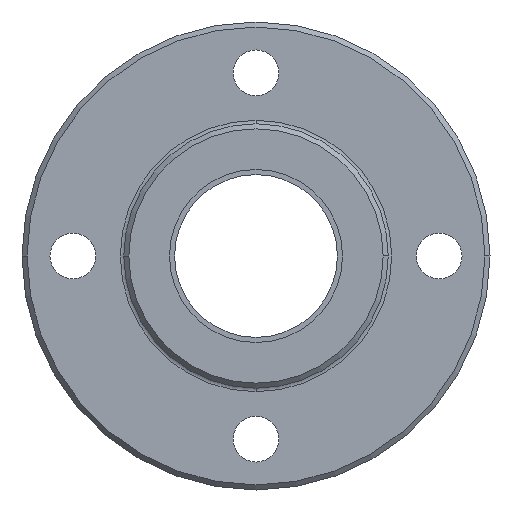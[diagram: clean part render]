
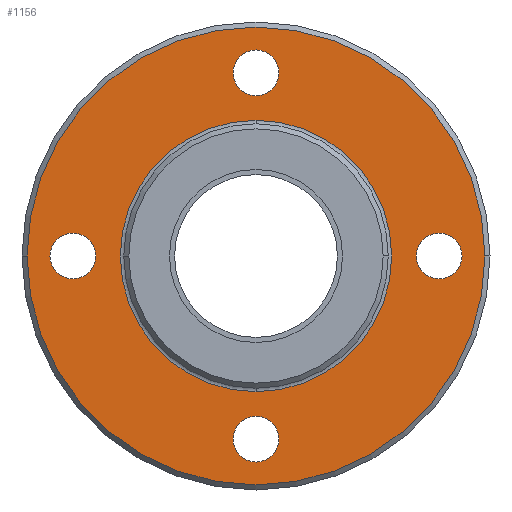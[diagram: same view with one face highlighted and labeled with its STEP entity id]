
A CAD part, left-side view. The second image highlights one B-rep face of the part: STEP entity #1156.
In plain terms, the highlighted planar face has unit normal (-1, 0, 0).
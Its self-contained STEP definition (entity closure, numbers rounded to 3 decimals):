
#8 = EDGE_LOOP ( 'NONE', ( #797, #120 ) ) ;
#15 = EDGE_CURVE ( 'NONE', #1193, #475, #1440, .T. ) ;
#51 = CIRCLE ( 'NONE', #246, 2.25 ) ;
#67 = ORIENTED_EDGE ( 'NONE', *, *, #15, .T. ) ;
#83 = DIRECTION ( 'NONE',  ( -1., 0., 0. ) ) ;
#89 = DIRECTION ( 'NONE',  ( 1., 0., 0. ) ) ;
#100 = VERTEX_POINT ( 'NONE', #1196 ) ;
#104 = AXIS2_PLACEMENT_3D ( 'NONE', #811, #674, #571 ) ;
#120 = ORIENTED_EDGE ( 'NONE', *, *, #1020, .T. ) ;
#125 = DIRECTION ( 'NONE',  ( 1., 0., 0. ) ) ;
#131 = VERTEX_POINT ( 'NONE', #1319 ) ;
#179 = ORIENTED_EDGE ( 'NONE', *, *, #1403, .T. ) ;
#194 = EDGE_LOOP ( 'NONE', ( #1225, #749 ) ) ;
#196 = ORIENTED_EDGE ( 'NONE', *, *, #432, .T. ) ;
#230 = VERTEX_POINT ( 'NONE', #1350 ) ;
#235 = DIRECTION ( 'NONE',  ( 0., 0., -1. ) ) ;
#238 = AXIS2_PLACEMENT_3D ( 'NONE', #894, #83, #1368 ) ;
#241 = EDGE_CURVE ( 'NONE', #131, #645, #564, .T. ) ;
#246 = AXIS2_PLACEMENT_3D ( 'NONE', #1011, #1211, #1129 ) ;
#253 = AXIS2_PLACEMENT_3D ( 'NONE', #1495, #292, #429 ) ;
#263 = VERTEX_POINT ( 'NONE', #857 ) ;
#267 = FACE_BOUND ( 'NONE', #194, .T. ) ;
#275 = CARTESIAN_POINT ( 'NONE',  ( 30., -15.75, 0. ) ) ;
#290 = EDGE_CURVE ( 'NONE', #475, #1193, #51, .T. ) ;
#292 = DIRECTION ( 'NONE',  ( -1., 0., 0. ) ) ;
#298 = DIRECTION ( 'NONE',  ( -1., 0., 0. ) ) ;
#301 = AXIS2_PLACEMENT_3D ( 'NONE', #1480, #881, #1230 ) ;
#339 = AXIS2_PLACEMENT_3D ( 'NONE', #1510, #1152, #467 ) ;
#342 = EDGE_CURVE ( 'NONE', #604, #100, #394, .T. ) ;
#345 = ORIENTED_EDGE ( 'NONE', *, *, #774, .T. ) ;
#364 = CARTESIAN_POINT ( 'NONE',  ( 30., 0., -15.75 ) ) ;
#368 = DIRECTION ( 'NONE',  ( -1., 0., 0. ) ) ;
#374 = CARTESIAN_POINT ( 'NONE',  ( 30., 0., 13.338 ) ) ;
#386 = FACE_BOUND ( 'NONE', #1465, .T. ) ;
#394 = CIRCLE ( 'NONE', #687, 2.25 ) ;
#412 = CIRCLE ( 'NONE', #339, 2.25 ) ;
#429 = DIRECTION ( 'NONE',  ( 0., 1., 0. ) ) ;
#432 = EDGE_CURVE ( 'NONE', #895, #1316, #1116, .T. ) ;
#452 = CARTESIAN_POINT ( 'NONE',  ( 30., 22.5, 0. ) ) ;
#462 = CARTESIAN_POINT ( 'NONE',  ( 30., -22.5, 0. ) ) ;
#467 = DIRECTION ( 'NONE',  ( 0., 1., 0. ) ) ;
#475 = VERTEX_POINT ( 'NONE', #554 ) ;
#500 = FACE_BOUND ( 'NONE', #841, .T. ) ;
#536 = CIRCLE ( 'NONE', #853, 2.25 ) ;
#554 = CARTESIAN_POINT ( 'NONE',  ( 30., 0., 20.25 ) ) ;
#555 = ORIENTED_EDGE ( 'NONE', *, *, #290, .T. ) ;
#564 = CIRCLE ( 'NONE', #301, 2.25 ) ;
#571 = DIRECTION ( 'NONE',  ( 0., 0., -1. ) ) ;
#578 = CIRCLE ( 'NONE', #238, 13.338 ) ;
#604 = VERTEX_POINT ( 'NONE', #275 ) ;
#627 = CARTESIAN_POINT ( 'NONE',  ( 30., 17.919, 0. ) ) ;
#629 = VERTEX_POINT ( 'NONE', #374 ) ;
#645 = VERTEX_POINT ( 'NONE', #364 ) ;
#671 = CARTESIAN_POINT ( 'NONE',  ( 30., 0., -13.338 ) ) ;
#674 = DIRECTION ( 'NONE',  ( 1., 0., 0. ) ) ;
#678 = CIRCLE ( 'NONE', #751, 2.25 ) ;
#687 = AXIS2_PLACEMENT_3D ( 'NONE', #1347, #1119, #1242 ) ;
#714 = FACE_BOUND ( 'NONE', #8, .T. ) ;
#739 = DIRECTION ( 'NONE',  ( 0., 1., 0. ) ) ;
#740 = PLANE ( 'NONE',  #922 ) ;
#749 = ORIENTED_EDGE ( 'NONE', *, *, #805, .F. ) ;
#751 = AXIS2_PLACEMENT_3D ( 'NONE', #1012, #89, #756 ) ;
#756 = DIRECTION ( 'NONE',  ( 0., 1., 0. ) ) ;
#762 = CARTESIAN_POINT ( 'NONE',  ( 30., 0., 15.75 ) ) ;
#768 = DIRECTION ( 'NONE',  ( 0., 1., 0. ) ) ;
#774 = EDGE_CURVE ( 'NONE', #230, #263, #678, .T. ) ;
#791 = ORIENTED_EDGE ( 'NONE', *, *, #241, .T. ) ;
#797 = ORIENTED_EDGE ( 'NONE', *, *, #342, .T. ) ;
#805 = EDGE_CURVE ( 'NONE', #1422, #629, #578, .T. ) ;
#811 = CARTESIAN_POINT ( 'NONE',  ( 30., 0., 18. ) ) ;
#841 = EDGE_LOOP ( 'NONE', ( #179, #345 ) ) ;
#853 = AXIS2_PLACEMENT_3D ( 'NONE', #1064, #1033, #1419 ) ;
#857 = CARTESIAN_POINT ( 'NONE',  ( 30., 20.25, 0. ) ) ;
#879 = CARTESIAN_POINT ( 'NONE',  ( 30., 0., 0. ) ) ;
#881 = DIRECTION ( 'NONE',  ( 1., 0., 0. ) ) ;
#894 = CARTESIAN_POINT ( 'NONE',  ( 30., 0., 0. ) ) ;
#895 = VERTEX_POINT ( 'NONE', #462 ) ;
#922 = AXIS2_PLACEMENT_3D ( 'NONE', #627, #1104, #1383 ) ;
#924 = AXIS2_PLACEMENT_3D ( 'NONE', #1202, #368, #739 ) ;
#994 = CIRCLE ( 'NONE', #253, 13.338 ) ;
#1007 = EDGE_CURVE ( 'NONE', #645, #131, #1382, .T. ) ;
#1011 = CARTESIAN_POINT ( 'NONE',  ( 30., 0., 18. ) ) ;
#1012 = CARTESIAN_POINT ( 'NONE',  ( 30., 18., 0. ) ) ;
#1015 = AXIS2_PLACEMENT_3D ( 'NONE', #879, #298, #768 ) ;
#1020 = EDGE_CURVE ( 'NONE', #100, #604, #536, .T. ) ;
#1033 = DIRECTION ( 'NONE',  ( 1., 0., 0. ) ) ;
#1064 = CARTESIAN_POINT ( 'NONE',  ( 30., -18., 0. ) ) ;
#1079 = FACE_BOUND ( 'NONE', #1199, .T. ) ;
#1104 = DIRECTION ( 'NONE',  ( -1., 0., 0. ) ) ;
#1116 = CIRCLE ( 'NONE', #1015, 22.5 ) ;
#1119 = DIRECTION ( 'NONE',  ( 1., 0., 0. ) ) ;
#1129 = DIRECTION ( 'NONE',  ( 0., 0., -1. ) ) ;
#1149 = ORIENTED_EDGE ( 'NONE', *, *, #1007, .T. ) ;
#1152 = DIRECTION ( 'NONE',  ( 1., 0., 0. ) ) ;
#1156 = ADVANCED_FACE ( 'NONE', ( #267, #500, #714, #1079, #386, #1334 ), #740, .T. ) ;
#1171 = EDGE_LOOP ( 'NONE', ( #1324, #196 ) ) ;
#1193 = VERTEX_POINT ( 'NONE', #762 ) ;
#1196 = CARTESIAN_POINT ( 'NONE',  ( 30., -20.25, 0. ) ) ;
#1199 = EDGE_LOOP ( 'NONE', ( #67, #555 ) ) ;
#1202 = CARTESIAN_POINT ( 'NONE',  ( 30., 0., 0. ) ) ;
#1211 = DIRECTION ( 'NONE',  ( 1., 0., 0. ) ) ;
#1225 = ORIENTED_EDGE ( 'NONE', *, *, #1307, .F. ) ;
#1230 = DIRECTION ( 'NONE',  ( 0., 0., -1. ) ) ;
#1242 = DIRECTION ( 'NONE',  ( 0., 1., 0. ) ) ;
#1259 = AXIS2_PLACEMENT_3D ( 'NONE', #1298, #125, #235 ) ;
#1298 = CARTESIAN_POINT ( 'NONE',  ( 30., 0., -18. ) ) ;
#1307 = EDGE_CURVE ( 'NONE', #629, #1422, #994, .T. ) ;
#1316 = VERTEX_POINT ( 'NONE', #452 ) ;
#1319 = CARTESIAN_POINT ( 'NONE',  ( 30., 0., -20.25 ) ) ;
#1324 = ORIENTED_EDGE ( 'NONE', *, *, #1435, .T. ) ;
#1334 = FACE_OUTER_BOUND ( 'NONE', #1171, .T. ) ;
#1347 = CARTESIAN_POINT ( 'NONE',  ( 30., -18., 0. ) ) ;
#1350 = CARTESIAN_POINT ( 'NONE',  ( 30., 15.75, 0. ) ) ;
#1368 = DIRECTION ( 'NONE',  ( 0., 1., 0. ) ) ;
#1382 = CIRCLE ( 'NONE', #1259, 2.25 ) ;
#1383 = DIRECTION ( 'NONE',  ( 0., 0., 1. ) ) ;
#1403 = EDGE_CURVE ( 'NONE', #263, #230, #412, .T. ) ;
#1418 = CIRCLE ( 'NONE', #924, 22.5 ) ;
#1419 = DIRECTION ( 'NONE',  ( 0., 1., 0. ) ) ;
#1422 = VERTEX_POINT ( 'NONE', #671 ) ;
#1435 = EDGE_CURVE ( 'NONE', #1316, #895, #1418, .T. ) ;
#1440 = CIRCLE ( 'NONE', #104, 2.25 ) ;
#1465 = EDGE_LOOP ( 'NONE', ( #791, #1149 ) ) ;
#1480 = CARTESIAN_POINT ( 'NONE',  ( 30., 0., -18. ) ) ;
#1495 = CARTESIAN_POINT ( 'NONE',  ( 30., 0., 0. ) ) ;
#1510 = CARTESIAN_POINT ( 'NONE',  ( 30., 18., 0. ) ) ;
